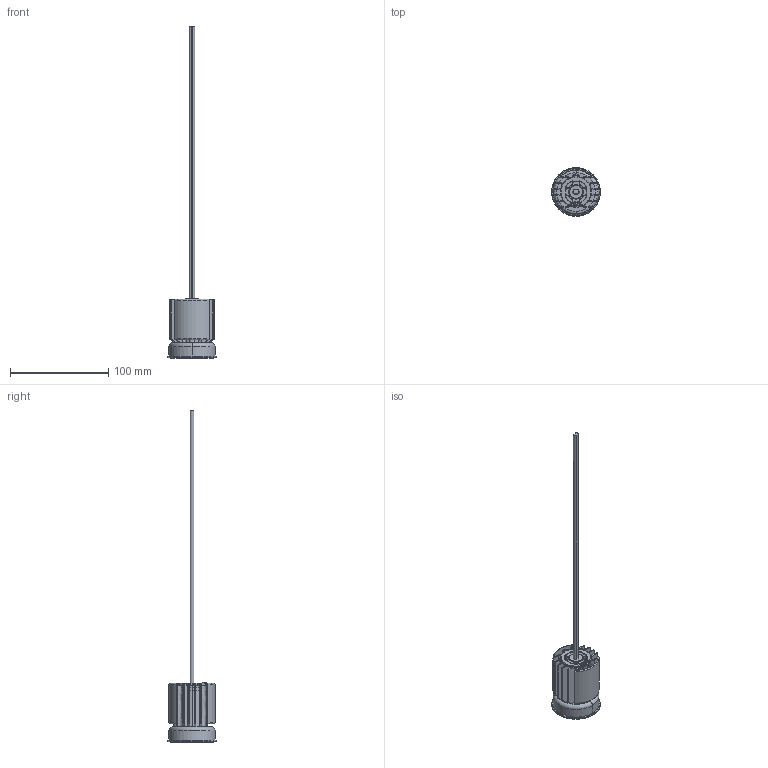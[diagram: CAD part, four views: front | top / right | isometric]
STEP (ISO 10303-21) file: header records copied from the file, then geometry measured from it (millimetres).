
FILE_DESCRIPTION((''),'2;1');
FILE_NAME('15011474Z_DATAMEC_D49-6X60_DC','2017-07-11T',('Juergen.Hrach'),(''),'PRO/ENGINEER BY PARAMETRIC TECHNOLOGY CORPORATION, 2015200','PRO/ENGINEER BY PARAMETRIC TECHNOLOGY CORPORATION, 2015200','');
FILE_SCHEMA(('AUTOMOTIVE_DESIGN { 1 0 10303 214 1 1 1 1 }'));
Products named in the file (1): 15011474Z_DATAMEC_D49-6X60_DC
Bounding box: 49.6 x 49.6 x 338.7 mm (x, y, z)
Volume: 6602 mm3; surface area: 50255.6 mm2
Topology: 1 solids, 27 shells, 1584 faces, 4669 edges, 2874 vertices
Faces by surface type: bspline 996, revolution 588
Entity records: 155750 total; most frequent: CARTESIAN_POINT 122380, ORIENTED_EDGE 8491, EDGE_CURVE 4565, DIRECTION 3285, VERTEX_POINT 2874, B_SPLINE_CURVE_WITH_KNOTS 2797, EDGE_LOOP 1644, FACE_OUTER_BOUND 1584
